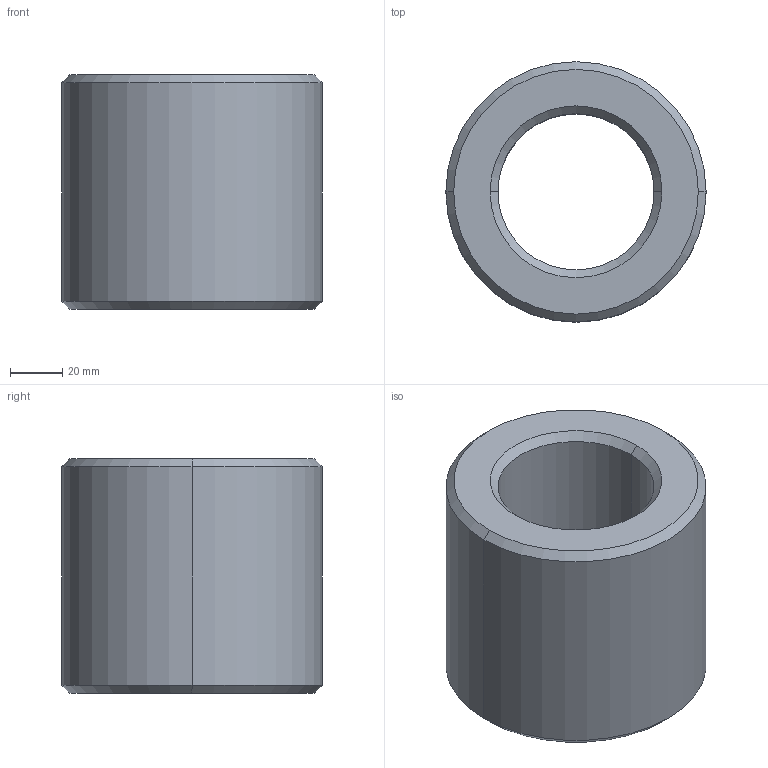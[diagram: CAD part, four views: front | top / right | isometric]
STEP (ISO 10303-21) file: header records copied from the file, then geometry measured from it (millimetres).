
FILE_DESCRIPTION (( 'STEP AP203' ), '1' );
FILE_NAME ('L1339.R60-09.step', '2024-10-24T14:12:52', ( '' ), ( '' ), 'SwSTEP 2.0', 'SolidWorks 2019', '' );
FILE_SCHEMA (( 'CONFIG_CONTROL_DESIGN' ));
Length unit declared in the file: millimetre
Products named in the file (1): L1339.R60-09
Bounding box: 100 x 100 x 90 mm (x, y, z)
Volume: 447865.4 mm3; surface area: 53525.3 mm2
Topology: 1 solids, 1 shells, 14 faces, 28 edges, 16 vertices
Faces by surface type: cone 8, cylinder 4, plane 2
Entity records: 445 total; most frequent: DIRECTION 74, CARTESIAN_POINT 59, ORIENTED_EDGE 56, AXIS2_PLACEMENT_3D 31, EDGE_CURVE 28, CIRCLE 16, VERTEX_POINT 16, EDGE_LOOP 16
